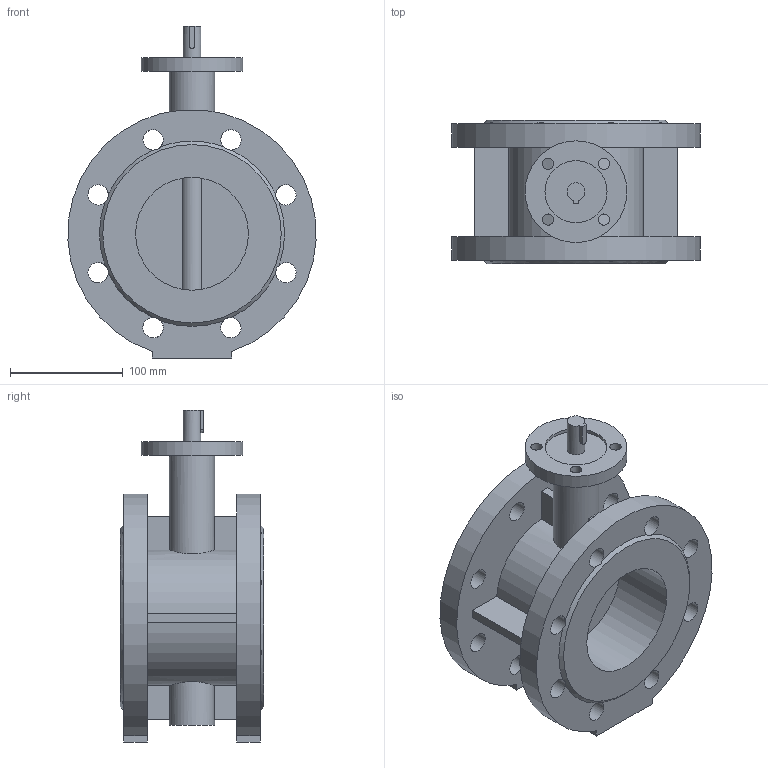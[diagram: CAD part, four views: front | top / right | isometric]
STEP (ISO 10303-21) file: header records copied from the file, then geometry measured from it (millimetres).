
FILE_DESCRIPTION(('STEP AP203'), '1');
FILE_NAME('Çàòâîð 021F.Y DN100 PN10_16 ïîä ÝÏ', '', ('UNSPECIFIED'), ('UNSPECIFIED'), 'ASCON STEP Converter 1.6', 'ASCON Math Kernel', '');
FILE_SCHEMA(('CONFIG_CONTROL_DESIGN'));
Length unit declared in the file: millimetre
Bounding box: 219.71 x 127 x 294 mm (x, y, z)
Volume: 1905810.7 mm3; surface area: 282036.9 mm2
Topology: 1 solids, 1 shells, 80 faces, 255 edges, 170 vertices
Faces by surface type: plane 42, cylinder 36, cone 2
Full cylindrical faces by diameter (mm): 10 x4, 15.8 x1, 18 x16, 40 x2, 55 x1, 90 x1, 100 x2
Entity records: 5355 total; most frequent: CARTESIAN_POINT 2402, DIRECTION 471, ORIENTED_EDGE 452, EDGE_CURVE 226, AXIS2_PLACEMENT_3D 191, VERTEX_POINT 170, EDGE_LOOP 142, CIRCLE 110
